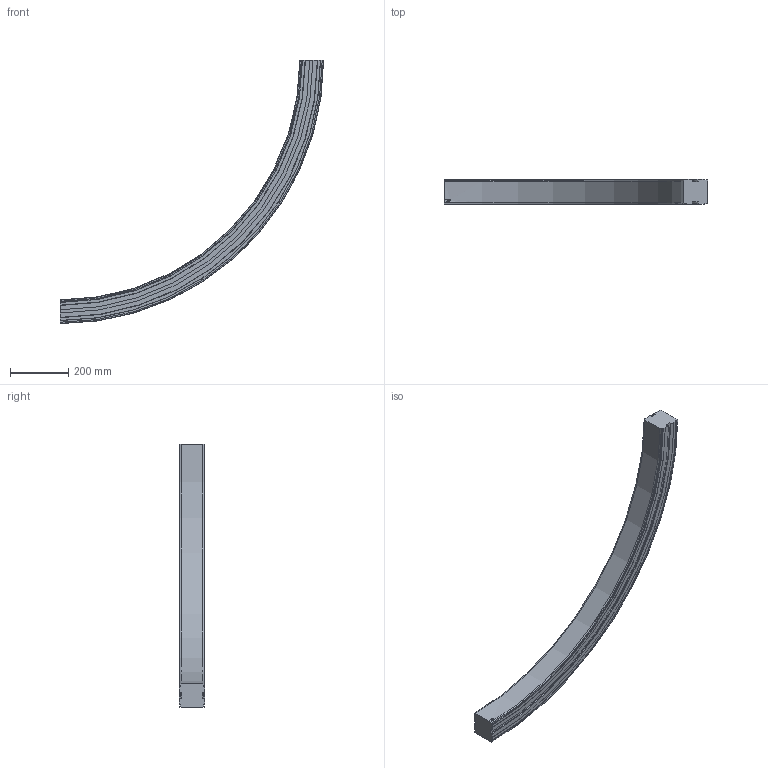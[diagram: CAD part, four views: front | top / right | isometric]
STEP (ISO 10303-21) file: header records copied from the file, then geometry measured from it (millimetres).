
FILE_DESCRIPTION((''),'2;1');
FILE_NAME('C:\Vault Klient\Projekt\Koncept konstruktion\Serie 830 Balk\830-5690_UP.stp','2009-11-27T12:22:24',('Mathias'),(''),'Autodesk Inventor 2010','Autodesk Inventor 2010','');
FILE_SCHEMA(('AUTOMOTIVE_DESIGN { 1 0 10303 214 1 1 1 1 }'));
Length unit declared in the file: millimetre
Products named in the file (1): 830-5690_UP
Bounding box: 902 x 86 x 902 mm (x, y, z)
Volume: 8992141.1 mm3; surface area: 565913.6 mm2
Topology: 1 solids, 1 shells, 93 faces, 258 edges, 172 vertices
Faces by surface type: plane 40, cylinder 23, bspline 14, cone 12, torus 4
Entity records: 3436 total; most frequent: CARTESIAN_POINT 1002, ORIENTED_EDGE 516, DIRECTION 472, EDGE_CURVE 258, VERTEX_POINT 172, AXIS2_PLACEMENT_3D 162, VECTOR 148, LINE 148
